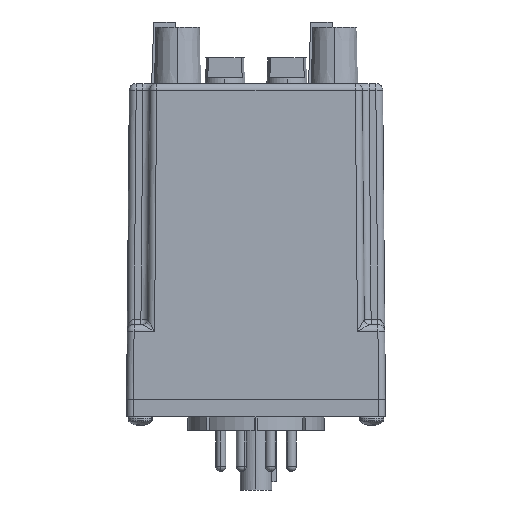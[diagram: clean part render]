
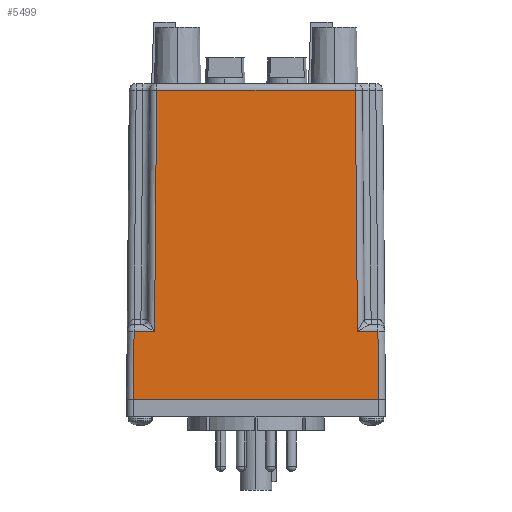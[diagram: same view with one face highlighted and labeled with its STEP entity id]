
A CAD part, left-side view. The second image highlights one B-rep face of the part: STEP entity #5499.
In plain terms, the highlighted planar face has unit normal (-1, 0, 0.009).
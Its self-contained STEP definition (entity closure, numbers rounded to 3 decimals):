
#318 = AXIS2_PLACEMENT_3D ( 'NONE', #24710, #9579, #7011 ) ;
#645 = EDGE_LOOP ( 'NONE', ( #6812, #2444, #4412, #1522, #33003, #21544, #11771, #27048 ) ) ;
#738 = CARTESIAN_POINT ( 'NONE',  ( -21.596, -23.158, 72.074 ) ) ;
#1368 = DIRECTION ( 'NONE',  ( 0., 1., 0. ) ) ;
#1467 = DIRECTION ( 'NONE',  ( -0.009, 0.009, -1. ) ) ;
#1522 = ORIENTED_EDGE ( 'NONE', *, *, #26072, .T. ) ;
#2444 = ORIENTED_EDGE ( 'NONE', *, *, #19449, .T. ) ;
#3299 = LINE ( 'NONE', #16870, #32751 ) ;
#3331 = DIRECTION ( 'NONE',  ( 0., -1., 0. ) ) ;
#3499 = LINE ( 'NONE', #21534, #27361 ) ;
#4278 = LINE ( 'NONE', #24874, #7773 ) ;
#4412 = ORIENTED_EDGE ( 'NONE', *, *, #32928, .T. ) ;
#4814 = CARTESIAN_POINT ( 'NONE',  ( -22.086, 23.649, 15.889 ) ) ;
#5499 = ADVANCED_FACE ( 'NONE', ( #12152 ), #19400, .T. ) ;
#6276 = LINE ( 'NONE', #16774, #18760 ) ;
#6812 = ORIENTED_EDGE ( 'NONE', *, *, #13081, .T. ) ;
#7011 = DIRECTION ( 'NONE',  ( 0.009, 0., 1. ) ) ;
#7199 = VERTEX_POINT ( 'NONE', #27601 ) ;
#7773 = VECTOR ( 'NONE', #1368, 1000. ) ;
#8537 = VERTEX_POINT ( 'NONE', #23006 ) ;
#9469 = CARTESIAN_POINT ( 'NONE',  ( -21.596, 23.158, 72.074 ) ) ;
#9579 = DIRECTION ( 'NONE',  ( -1., 0., 0.009 ) ) ;
#10536 = DIRECTION ( 'NONE',  ( 0.009, 0.009, 1. ) ) ;
#11771 = ORIENTED_EDGE ( 'NONE', *, *, #33820, .T. ) ;
#12152 = FACE_OUTER_BOUND ( 'NONE', #645, .T. ) ;
#12283 = DIRECTION ( 'NONE',  ( 0., 1., 0. ) ) ;
#12615 = CARTESIAN_POINT ( 'NONE',  ( -22.086, -23.635, 15.889 ) ) ;
#13081 = EDGE_CURVE ( 'NONE', #31415, #28853, #6276, .T. ) ;
#13121 = LINE ( 'NONE', #23589, #14726 ) ;
#13546 = EDGE_CURVE ( 'NONE', #17027, #31415, #4278, .T. ) ;
#14726 = VECTOR ( 'NONE', #10536, 1000. ) ;
#16371 = CARTESIAN_POINT ( 'NONE',  ( -22.086, -28.424, 15.889 ) ) ;
#16465 = LINE ( 'NONE', #21771, #25427 ) ;
#16774 = CARTESIAN_POINT ( 'NONE',  ( -22.221, 23.783, 0.471 ) ) ;
#16870 = CARTESIAN_POINT ( 'NONE',  ( -22.225, -23.788, -0.056 ) ) ;
#17027 = VERTEX_POINT ( 'NONE', #738 ) ;
#17250 = VECTOR ( 'NONE', #23095, 1000. ) ;
#18760 = VECTOR ( 'NONE', #1467, 1000. ) ;
#19400 = PLANE ( 'NONE',  #318 ) ;
#19449 = EDGE_CURVE ( 'NONE', #28853, #8537, #16465, .T. ) ;
#19670 = EDGE_CURVE ( 'NONE', #26418, #29770, #25688, .T. ) ;
#20548 = DIRECTION ( 'NONE',  ( -0.009, 0.009, -1. ) ) ;
#21534 = CARTESIAN_POINT ( 'NONE',  ( -22.225, -30.163, 0. ) ) ;
#21544 = ORIENTED_EDGE ( 'NONE', *, *, #19670, .T. ) ;
#21643 = CARTESIAN_POINT ( 'NONE',  ( -22.086, -23.649, 15.889 ) ) ;
#21771 = CARTESIAN_POINT ( 'NONE',  ( -22.086, 28.41, 15.889 ) ) ;
#21837 = DIRECTION ( 'NONE',  ( 0.009, 0.009, 1. ) ) ;
#23006 = CARTESIAN_POINT ( 'NONE',  ( -22.086, 28.424, 15.889 ) ) ;
#23095 = DIRECTION ( 'NONE',  ( 0., 1., 0. ) ) ;
#23589 = CARTESIAN_POINT ( 'NONE',  ( -22.225, -28.562, -0.014 ) ) ;
#24710 = CARTESIAN_POINT ( 'NONE',  ( -22.225, -30.163, 0. ) ) ;
#24874 = CARTESIAN_POINT ( 'NONE',  ( -21.596, 23.144, 72.074 ) ) ;
#25427 = VECTOR ( 'NONE', #12283, 1000. ) ;
#25688 = LINE ( 'NONE', #12615, #17250 ) ;
#25980 = EDGE_CURVE ( 'NONE', #7199, #26418, #13121, .T. ) ;
#26072 = EDGE_CURVE ( 'NONE', #29698, #7199, #3499, .T. ) ;
#26418 = VERTEX_POINT ( 'NONE', #16371 ) ;
#27048 = ORIENTED_EDGE ( 'NONE', *, *, #13546, .T. ) ;
#27361 = VECTOR ( 'NONE', #3331, 1000. ) ;
#27601 = CARTESIAN_POINT ( 'NONE',  ( -22.225, -28.562, 0. ) ) ;
#28355 = VECTOR ( 'NONE', #20548, 1000. ) ;
#28853 = VERTEX_POINT ( 'NONE', #4814 ) ;
#29698 = VERTEX_POINT ( 'NONE', #30115 ) ;
#29770 = VERTEX_POINT ( 'NONE', #21643 ) ;
#29860 = LINE ( 'NONE', #33268, #28355 ) ;
#30115 = CARTESIAN_POINT ( 'NONE',  ( -22.225, 28.562, 0. ) ) ;
#31415 = VERTEX_POINT ( 'NONE', #9469 ) ;
#32751 = VECTOR ( 'NONE', #21837, 1000. ) ;
#32928 = EDGE_CURVE ( 'NONE', #8537, #29698, #29860, .T. ) ;
#33003 = ORIENTED_EDGE ( 'NONE', *, *, #25980, .T. ) ;
#33268 = CARTESIAN_POINT ( 'NONE',  ( -22.221, 28.558, 0.512 ) ) ;
#33820 = EDGE_CURVE ( 'NONE', #29770, #17027, #3299, .T. ) ;
